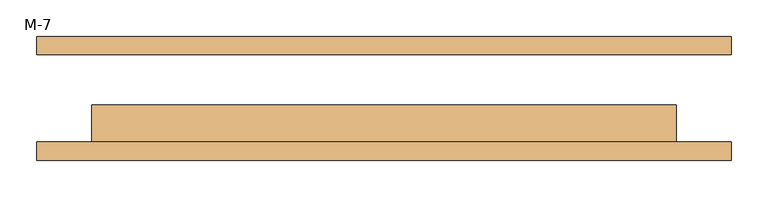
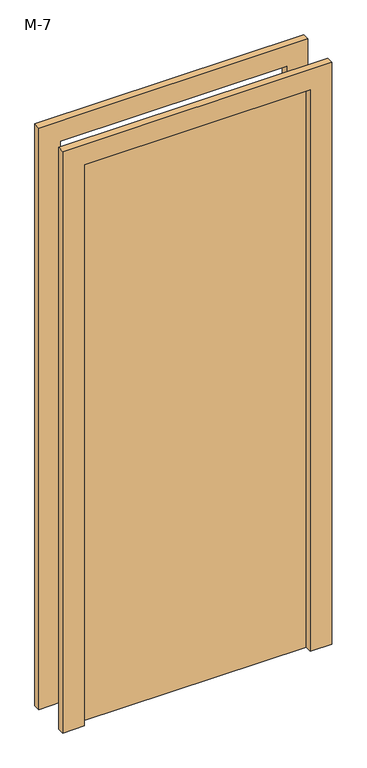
"""IFC4 building model written with IfcOpenShell, lengths in millimetres: door geometry, 单扇 - 与墙齐 : M-7."""

from ifc_helpers import new_model, si_unit, frame, origin, origin_with_axes, place, context, project, spatial, polyline, outline, extrude, source, transform, mapped, element, save


def m_7_1c2f6ab2(model_context):
    return source(origin(), model_context, "Body", "SweptSolid", [
        extrude(outline(polyline([(2176.0, -476.0), (0.0, -476.0), (0.0, -400.0), (2100.0, -400.0), (2100.0, 400.0), (0.0, 400.0), (0.0, 476.0), (2176.0, 476.0), (2176.0, -476.0)])), frame((0.0, -85.0, 0.0), z_axis=(0.0, 1.0, 0.0), x_axis=(0.0, 0.0, 1.0)), (0.0, 0.0, 1.0), 25.0),
        extrude(outline(polyline([(2176.0, 476.0), (2176.0, -476.0), (0.0, -476.0), (0.0, -400.0), (2100.0, -400.0), (2100.0, 400.0), (0.0, 400.0), (0.0, 476.0), (2176.0, 476.0)])), frame((0.0, 60.0, 0.0), z_axis=(0.0, 1.0, 0.0), x_axis=(0.0, 0.0, 1.0)), (0.0, 0.0, 1.0), 25.0),
        extrude(outline(polyline([(400.0, -9.0), (400.0, -60.0), (-400.0, -60.0), (-400.0, -9.0), (400.0, -9.0)])), origin_with_axes(), (0.0, 0.0, 1.0), 2100.0),
    ])


if __name__ == "__main__":
    model = new_model("IFC4")
    model_context = context("Model", 3, world=origin())
    ifc_project = project(units=[si_unit("LENGTHUNIT", "METRE", prefix="MILLI")], contexts=[model_context])
    site = spatial("IfcSite", under=ifc_project)
    building = spatial("IfcBuilding", under=site)
    placement = place(None, origin())
    m_7_shape = m_7_1c2f6ab2(model_context)
    element("IfcDoor", 1, ObjectType="单扇 - 与墙齐 : M-7", at=placement, inside=building, context=model_context, shape_type="MappedRepresentation", body=[
        mapped(m_7_shape, transform((0.0, 0.0, 0.0), x_axis=(1.0, 0.0, 0.0), y_axis=(0.0, 1.0, 0.0), z_axis=(0.0, 0.0, 1.0))),
    ])
    save(model, "model.ifc")
